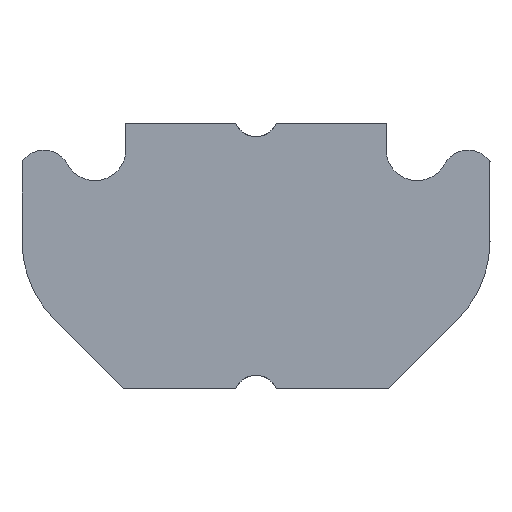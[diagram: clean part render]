
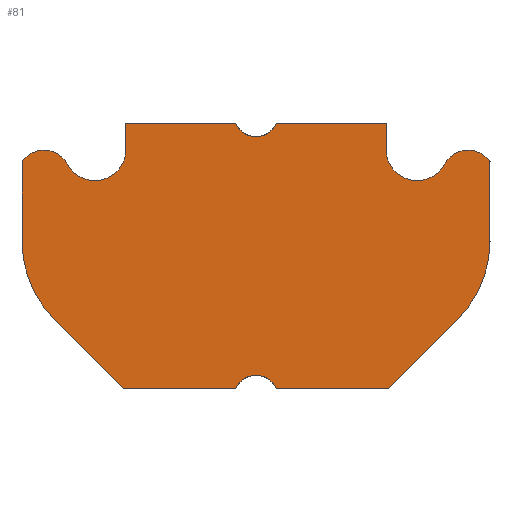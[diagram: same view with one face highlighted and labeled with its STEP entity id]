
A CAD part, left-side view. The second image highlights one B-rep face of the part: STEP entity #81.
In plain terms, the highlighted planar face has unit normal (-1, 0, 0).
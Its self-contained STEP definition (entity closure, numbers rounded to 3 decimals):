
#81=ADVANCED_FACE('',(#169),#170,.T.);
#169=FACE_OUTER_BOUND('',#259,.T.);
#170=PLANE('',#260);
#259=EDGE_LOOP('',(#439,#440,#441,#442,#443,#444,#445,#446,#447,#448,#449,#450,#451,#452,#453,#454,#455,#456,#457));
#260=AXIS2_PLACEMENT_3D('',#458,#459,#460);
#439=ORIENTED_EDGE('',*,*,#646,.T.);
#440=ORIENTED_EDGE('',*,*,#625,.T.);
#441=ORIENTED_EDGE('',*,*,#647,.T.);
#442=ORIENTED_EDGE('',*,*,#648,.T.);
#443=ORIENTED_EDGE('',*,*,#590,.F.);
#444=ORIENTED_EDGE('',*,*,#649,.T.);
#445=ORIENTED_EDGE('',*,*,#650,.T.);
#446=ORIENTED_EDGE('',*,*,#629,.T.);
#447=ORIENTED_EDGE('',*,*,#644,.T.);
#448=ORIENTED_EDGE('',*,*,#633,.T.);
#449=ORIENTED_EDGE('',*,*,#651,.T.);
#450=ORIENTED_EDGE('',*,*,#642,.F.);
#451=ORIENTED_EDGE('',*,*,#652,.T.);
#452=ORIENTED_EDGE('',*,*,#653,.T.);
#453=ORIENTED_EDGE('',*,*,#594,.F.);
#454=ORIENTED_EDGE('',*,*,#654,.T.);
#455=ORIENTED_EDGE('',*,*,#655,.T.);
#456=ORIENTED_EDGE('',*,*,#638,.F.);
#457=ORIENTED_EDGE('',*,*,#656,.F.);
#458=CARTESIAN_POINT('',(0.,-5.3,3.0));
#459=DIRECTION('',(-1.0,0.,0.0));
#460=DIRECTION('',(0.,-1.0,0.0));
#590=EDGE_CURVE('',#716,#714,#718,.T.);
#594=EDGE_CURVE('',#722,#720,#724,.T.);
#625=EDGE_CURVE('',#773,#771,#774,.T.);
#629=EDGE_CURVE('',#779,#777,#780,.T.);
#633=EDGE_CURVE('',#785,#783,#786,.T.);
#638=EDGE_CURVE('',#791,#789,#793,.T.);
#642=EDGE_CURVE('',#797,#795,#799,.T.);
#644=EDGE_CURVE('',#777,#785,#801,.T.);
#646=EDGE_CURVE('',#803,#773,#804,.T.);
#647=EDGE_CURVE('',#771,#805,#806,.T.);
#648=EDGE_CURVE('',#805,#714,#807,.T.);
#649=EDGE_CURVE('',#716,#808,#809,.T.);
#650=EDGE_CURVE('',#808,#779,#810,.T.);
#651=EDGE_CURVE('',#783,#795,#811,.T.);
#652=EDGE_CURVE('',#797,#812,#813,.T.);
#653=EDGE_CURVE('',#812,#720,#814,.T.);
#654=EDGE_CURVE('',#722,#815,#816,.T.);
#655=EDGE_CURVE('',#815,#789,#817,.T.);
#656=EDGE_CURVE('',#803,#791,#818,.T.);
#714=VERTEX_POINT('',#950);
#716=VERTEX_POINT('',#953);
#718=CIRCLE('',#956,0.5);
#720=VERTEX_POINT('',#958);
#722=VERTEX_POINT('',#961);
#724=CIRCLE('',#964,0.5);
#771=VERTEX_POINT('',#1028);
#773=VERTEX_POINT('',#1031);
#774=CIRCLE('',#1032,2.5);
#777=VERTEX_POINT('',#1036);
#779=VERTEX_POINT('',#1039);
#780=CIRCLE('',#1040,2.5);
#783=VERTEX_POINT('',#1044);
#785=VERTEX_POINT('',#1047);
#786=LINE('',#1048,#1049);
#789=VERTEX_POINT('',#1053);
#791=VERTEX_POINT('',#1056);
#793=CIRCLE('',#1059,0.7);
#795=VERTEX_POINT('',#1061);
#797=VERTEX_POINT('',#1064);
#799=CIRCLE('',#1067,0.7);
#801=LINE('',#1069,#1070);
#803=VERTEX_POINT('',#1072);
#804=LINE('',#1073,#1074);
#805=VERTEX_POINT('',#1075);
#806=LINE('',#1076,#1077);
#807=LINE('',#1078,#1079);
#808=VERTEX_POINT('',#1080);
#809=LINE('',#1081,#1082);
#810=LINE('',#1083,#1084);
#811=CIRCLE('',#1085,0.6);
#812=VERTEX_POINT('',#1086);
#813=LINE('',#1087,#1088);
#814=LINE('',#1089,#1090);
#815=VERTEX_POINT('',#1091);
#816=LINE('',#1092,#1093);
#817=LINE('',#1094,#1095);
#818=CIRCLE('',#1096,0.6);
#950=CARTESIAN_POINT('',(0.,0.458,-3.0));
#953=CARTESIAN_POINT('',(0.,-0.458,-3.0));
#956=AXIS2_PLACEMENT_3D('',#1149,#1150,#1151);
#958=CARTESIAN_POINT('',(0.,-0.458,3.0));
#961=CARTESIAN_POINT('',(0.,0.458,3.0));
#964=AXIS2_PLACEMENT_3D('',#1154,#1155,#1156);
#1028=CARTESIAN_POINT('',(0.,4.568,-1.432));
#1031=CARTESIAN_POINT('',(0.,5.3,0.336));
#1032=AXIS2_PLACEMENT_3D('',#1196,#1197,#1198);
#1036=CARTESIAN_POINT('',(0.,-5.3,0.336));
#1039=CARTESIAN_POINT('',(0.,-4.568,-1.432));
#1040=AXIS2_PLACEMENT_3D('',#1201,#1202,#1203);
#1044=CARTESIAN_POINT('',(0.,-5.3,2.132));
#1047=CARTESIAN_POINT('',(0.,-5.3,2.132));
#1048=CARTESIAN_POINT('',(0.,-5.3,2.132));
#1049=VECTOR('',#1206,1.0);
#1053=CARTESIAN_POINT('',(0.,2.95,2.406));
#1056=CARTESIAN_POINT('',(0.,4.269,2.08));
#1059=AXIS2_PLACEMENT_3D('',#1210,#1211,#1212);
#1061=CARTESIAN_POINT('',(0.,-4.269,2.08));
#1064=CARTESIAN_POINT('',(0.,-2.95,2.406));
#1067=AXIS2_PLACEMENT_3D('',#1215,#1216,#1217);
#1069=CARTESIAN_POINT('',(0.,-5.3,-3.0));
#1070=VECTOR('',#1218,1.0);
#1072=CARTESIAN_POINT('',(0.,5.3,2.132));
#1073=CARTESIAN_POINT('',(0.,5.3,3.0));
#1074=VECTOR('',#1219,1.0);
#1075=CARTESIAN_POINT('',(0.,3.0,-3.0));
#1076=CARTESIAN_POINT('',(0.,1.85,-4.15));
#1077=VECTOR('',#1220,1.0);
#1078=CARTESIAN_POINT('',(0.,5.3,-3.0));
#1079=VECTOR('',#1221,1.0);
#1080=CARTESIAN_POINT('',(0.,-3.0,-3.0));
#1081=CARTESIAN_POINT('',(0.,5.3,-3.0));
#1082=VECTOR('',#1222,1.0);
#1083=CARTESIAN_POINT('',(0.,-3.0,-3.0));
#1084=VECTOR('',#1223,1.0);
#1085=AXIS2_PLACEMENT_3D('',#1224,#1225,#1226);
#1086=CARTESIAN_POINT('',(0.,-2.95,3.0));
#1087=CARTESIAN_POINT('',(0.,-2.95,4.001));
#1088=VECTOR('',#1227,1.0);
#1089=CARTESIAN_POINT('',(0.,-5.3,3.0));
#1090=VECTOR('',#1228,1.0);
#1091=CARTESIAN_POINT('',(0.,2.95,3.0));
#1092=CARTESIAN_POINT('',(0.,-5.3,3.0));
#1093=VECTOR('',#1229,1.0);
#1094=CARTESIAN_POINT('',(0.,2.95,2.4));
#1095=VECTOR('',#1230,1.0);
#1096=AXIS2_PLACEMENT_3D('',#1231,#1232,#1233);
#1149=CARTESIAN_POINT('',(0.,0.,-3.2));
#1150=DIRECTION('',(-1.0,0.,0.0));
#1151=DIRECTION('',(0.,-1.0,0.0));
#1154=CARTESIAN_POINT('',(0.,0.,3.2));
#1155=DIRECTION('',(-1.0,0.,0.0));
#1156=DIRECTION('',(0.,-1.0,0.0));
#1196=CARTESIAN_POINT('',(0.0,2.8,0.336));
#1197=DIRECTION('',(-1.0,0.,0.0));
#1198=DIRECTION('',(0.,-1.0,0.0));
#1201=CARTESIAN_POINT('',(0.0,-2.8,0.336));
#1202=DIRECTION('',(-1.0,0.,0.0));
#1203=DIRECTION('',(0.,-1.0,0.0));
#1206=DIRECTION('',(0.,0.569,-0.822));
#1210=CARTESIAN_POINT('',(0.0,3.65,2.406));
#1211=DIRECTION('',(-1.0,0.,0.0));
#1212=DIRECTION('',(0.,-1.0,0.0));
#1215=CARTESIAN_POINT('',(0.0,-3.65,2.406));
#1216=DIRECTION('',(-1.0,0.,0.0));
#1217=DIRECTION('',(0.,-1.0,0.0));
#1218=DIRECTION('',(0.,0.,1.0));
#1219=DIRECTION('',(0.,0.,-1.0));
#1220=DIRECTION('',(0.,-0.707,-0.707));
#1221=DIRECTION('',(0.,-1.0,0.));
#1222=DIRECTION('',(0.,-1.0,0.));
#1223=DIRECTION('',(0.,-0.707,0.707));
#1224=CARTESIAN_POINT('',(0.,-4.8,1.8));
#1225=DIRECTION('',(-1.0,0.,0.0));
#1226=DIRECTION('',(0.,-1.0,0.0));
#1227=DIRECTION('',(0.0,0.0,1.0));
#1228=DIRECTION('',(0.,1.0,0.0));
#1229=DIRECTION('',(0.,1.0,0.0));
#1230=DIRECTION('',(0.0,0.0,-1.0));
#1231=CARTESIAN_POINT('',(0.,4.8,1.8));
#1232=DIRECTION('',(1.0,0.,0.0));
#1233=DIRECTION('',(0.,-1.0,0.0));
